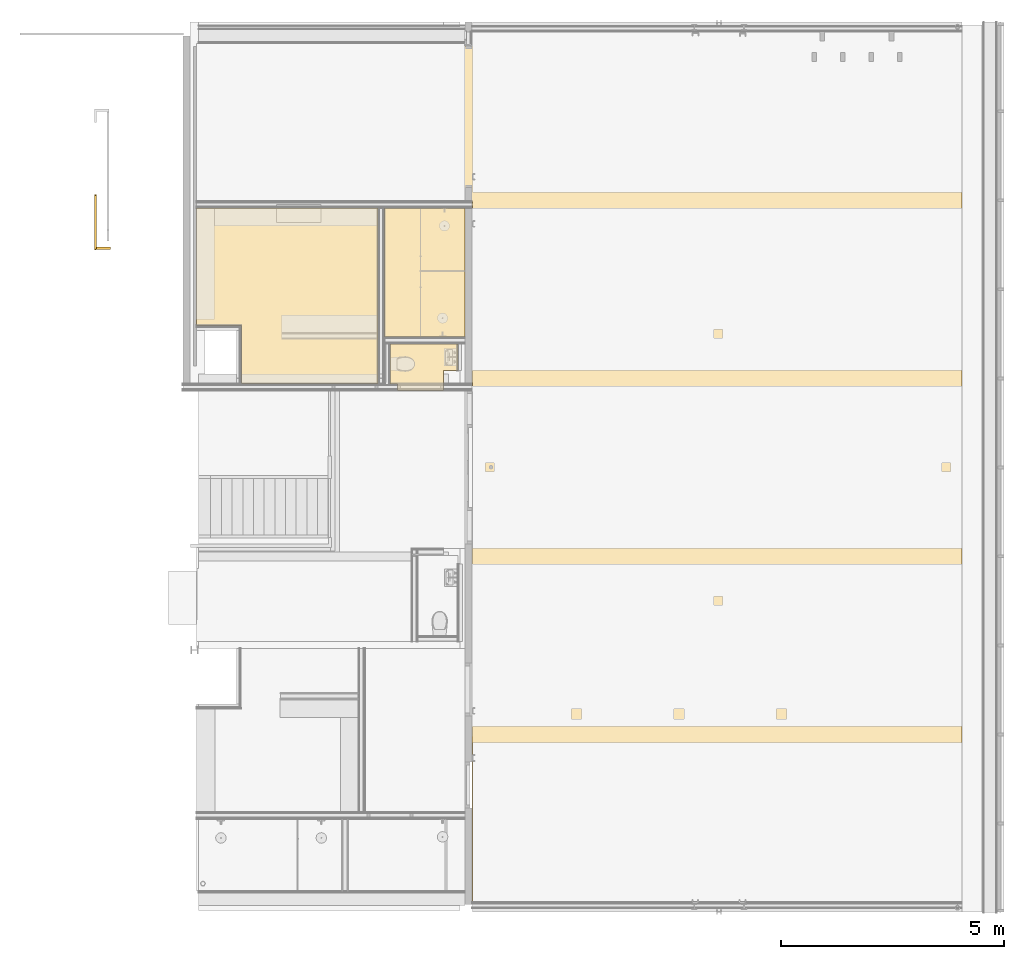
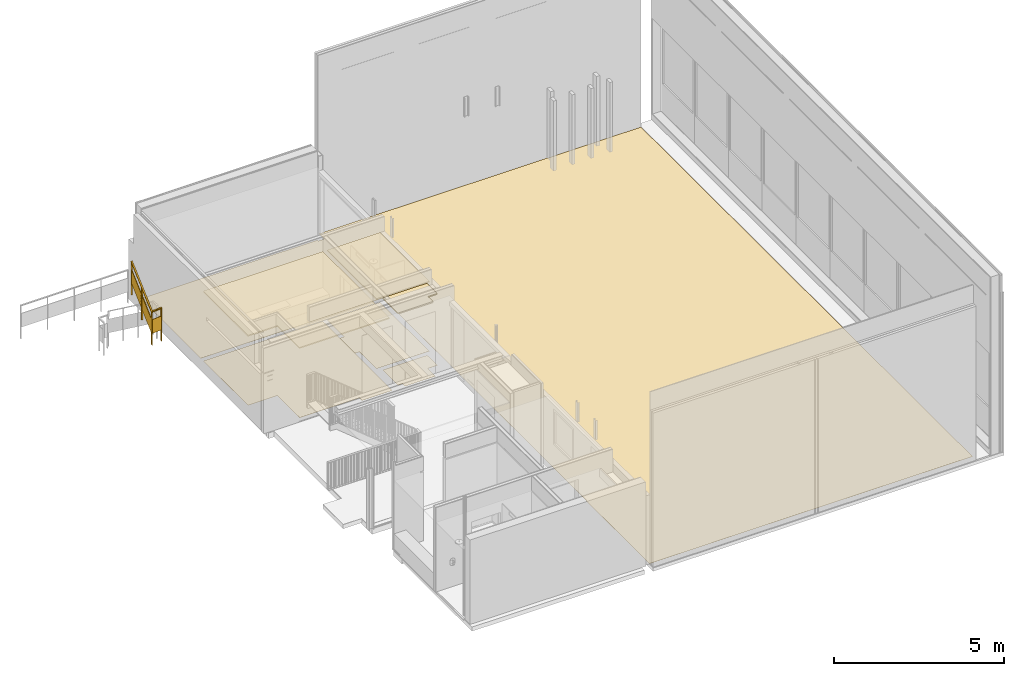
# One storey, part 25 of 35: 6 coverings, 1 railing.
"""IFC2X3 building model written with IfcOpenShell, lengths in millimetres."""

from ifc_helpers import new_model, entity, si_unit, converted_unit, derived_unit, money_unit, direction, frame, origin_with_axes, place, context, subcontext, project, spatial, faceted_brep, material, material_list, type_object, element, save


model = new_model("IFC2X3")

# Units and contexts
model_context = context("Model", 3, precision=0.01, world=origin_with_axes(), true_north=direction((0.0, 1.0)))
body_context = subcontext(model_context, "Body", "Model", "MODEL_VIEW")
ifc_project = project(units=[si_unit("LENGTHUNIT", "METRE", prefix="MILLI"), si_unit("AREAUNIT", "SQUARE_METRE"), si_unit("VOLUMEUNIT", "CUBIC_METRE"), converted_unit("PLANEANGLEUNIT", "DEGREE", entity("IfcPlaneAngleMeasure", 0.0174532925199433), si_unit("PLANEANGLEUNIT", "RADIAN"), dimensions=[0, 0, 0, 0, 0, 0, 0]), money_unit("EUR"), converted_unit("TIMEUNIT", "Year", entity("IfcTimeMeasure", 31557600.0), si_unit("TIMEUNIT", "SECOND"), dimensions=[0, 0, 1, 0, 0, 0, 0]), si_unit("MASSUNIT", "GRAM", prefix="KILO"), si_unit("THERMODYNAMICTEMPERATUREUNIT", "DEGREE_CELSIUS"), si_unit("LUMINOUSINTENSITYUNIT", "LUMEN"), si_unit("ENERGYUNIT", "JOULE", prefix="MEGA"), derived_unit("THERMALCONDUCTANCEUNIT", [(si_unit("POWERUNIT", "WATT"), 1), (si_unit("LENGTHUNIT", "METRE"), -1), (si_unit("THERMODYNAMICTEMPERATUREUNIT", "KELVIN"), -1)]), derived_unit("SPECIFICHEATCAPACITYUNIT", [(si_unit("ENERGYUNIT", "JOULE"), 1), (si_unit("MASSUNIT", "GRAM", prefix="KILO"), -1), (si_unit("THERMODYNAMICTEMPERATUREUNIT", "KELVIN"), -1)]), derived_unit("MASSDENSITYUNIT", [(si_unit("MASSUNIT", "GRAM", prefix="KILO"), 1), (si_unit("VOLUMEUNIT", "CUBIC_METRE"), -1)])], contexts=[model_context])

# Site, building, storey
site_placement = place(None, origin_with_axes())
site = spatial("IfcSite", under=ifc_project, at=site_placement, Name="<site naam>", CompositionType="ELEMENT")
building_placement = place(site_placement, origin_with_axes())
building = spatial("IfcBuilding", under=site, at=building_placement, Name="<Naam gebouw>", CompositionType="ELEMENT")
storey_placement = place(building_placement, frame((0.0, 0.0, 6345.0), z_axis=(0.0, 0.0, 1.0), x_axis=(1.0, 0.0, 0.0)))
storey = spatial("IfcBuildingStorey", under=building, at=storey_placement, Name="02 2e tussenverdieping", CompositionType="ELEMENT", Elevation=6345.0)

# Coverings
ifc_material_1 = material(Name="Gietvloer type 02a")
covering_type_1 = type_object("IfcCoveringType", Name="VA-02a 3", PredefinedType="CEILING")
covering_1_placement = place(storey_placement, frame((52134.99997288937, 15824.99998578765, 0.0), z_axis=(0.0, 0.0, 1.0), x_axis=(1.0, 0.0, 0.0)))
element("IfcCovering", 1, at=covering_1_placement, inside=storey, type_object=covering_type_1, material=ifc_material_1, Name="43_Vloer_VA-02a", PredefinedType="CEILING", context=body_context, shape_type="Brep", body=[
    faceted_brep([(0.0, 0.0, 3.000000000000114), (0.0, 0.0, 0.0), (0.0, -2637.500011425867, 0.0), (0.0, -2637.500011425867, 3.000000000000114), (4070.035734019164, 0.0, 3.000000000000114), (4070.035734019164, 0.0, 0.0), (4070.035734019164, -4099.999993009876, 0.0), (3036.035751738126, -4099.999993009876, 0.0), (3036.035751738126, -3950.000030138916, 0.0), (1002.500095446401, -3949.999938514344, 0.0), (1002.500095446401, -2637.500011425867, 0.0), (1002.500095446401, -2637.500011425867, 3.000000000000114), (1002.500095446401, -3949.999938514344, 3.000000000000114), (3036.035751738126, -3950.000030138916, 3.000000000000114), (3036.035751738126, -4099.999993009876, 3.000000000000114), (4070.035734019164, -4099.999993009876, 3.000000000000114)], [[[0, 1, 2, 3]], [[4, 5, 1, 0]], [[2, 1, 5, 6, 7, 8, 9, 10]], [[3, 2, 10, 11]], [[4, 0, 3, 11, 12, 13, 14, 15]], [[15, 6, 5, 4]], [[14, 7, 6, 15]], [[13, 8, 7, 14]], [[12, 9, 8, 13]], [[11, 10, 9, 12]]]),
])
covering_2_placement = place(storey_placement, frame((57999.99999782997, 12774.96948441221, 0.0), z_axis=(0.0, 0.0, 1.0), x_axis=(1.0, 0.0, 0.0)))
element("IfcCovering", 2, at=covering_2_placement, inside=storey, type_object=covering_type_1, material=ifc_material_1, Name="43_Vloer_VA-02a", PredefinedType="CEILING", context=body_context, shape_type="Brep", body=[
    faceted_brep([(0.0, 0.0, 3.000000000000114), (0.0, 0.0, 0.0), (-1517.596633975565, 8.052945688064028e-05, 0.0), (-1517.596633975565, 8.052945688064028e-05, 3.000000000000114), (0.0, -599.96947715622, 3.000000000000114), (0.0, -599.96947715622, 0.0), (-325.0000066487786, -599.96947715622, 0.0), (-325.0000334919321, -1049.969482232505, 0.0), (-1359.000041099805, -1049.969482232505, 0.0), (-1359.000041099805, -899.9694358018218, 0.0), (-1517.596633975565, -899.9695431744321, 0.0), (-1517.596633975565, -899.9695431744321, 3.000000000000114), (-1359.000041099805, -899.9694358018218, 3.000000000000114), (-1359.000041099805, -1049.969482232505, 3.000000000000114), (-325.0000334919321, -1049.969482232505, 3.000000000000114), (-325.0000066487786, -599.96947715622, 3.000000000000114)], [[[0, 1, 2, 3]], [[4, 5, 1, 0]], [[2, 1, 5, 6, 7, 8, 9, 10]], [[3, 2, 10, 11]], [[4, 0, 3, 11, 12, 13, 14, 15]], [[15, 6, 5, 4]], [[14, 7, 6, 15]], [[13, 8, 7, 14]], [[12, 9, 8, 13]], [[11, 10, 9, 12]]]),
])
ifc_material_2 = material(Name="sportvloer")
covering_type_2 = type_object("IfcCoveringType", Name="VA-03 3", PredefinedType="CEILING")
covering_3_placement = place(storey_placement, frame((52135.00000000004, 15974.99999999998, 0.0), z_axis=(0.0, 0.0, 1.0), x_axis=(1.0, 0.0, 0.0)))
element("IfcCovering", 3, at=covering_3_placement, inside=storey, type_object=covering_type_2, material=ifc_material_2, Name="43_Vloer_VA-03", PredefinedType="CEILING", context=body_context, shape_type="Brep", body=[
    faceted_brep([(0.0, 0.0, 3.000000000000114), (0.0, 0.0, 0.0), (6200.000220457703, 0.0, 0.0), (6200.000220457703, 0.0, 3.000000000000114), (0.0, 3547.000097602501, 3.000000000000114), (0.0, 3547.000097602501, 0.0), (6022.783017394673, 3547.000097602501, 0.0), (6022.783017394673, 3494.999969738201, 0.0), (6228.782772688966, 3494.999969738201, 0.0), (6228.782772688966, 3809.999976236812, 0.0), (17189.99989652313, 3809.999976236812, 0.0), (17189.99989652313, -15749.08937475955, 0.0), (8289.999786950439, -15749.08937475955, 0.0), (8289.999786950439, -15754.08937023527, 0.0), (6182.782872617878, -15754.08937023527, 0.0), (6182.782872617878, -12024.9999802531, 0.0), (6200.000220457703, -12024.9999802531, 0.0), (6200.000220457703, -12024.9999802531, 3.000000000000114), (6182.782872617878, -12024.9999802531, 3.000000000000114), (6182.782872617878, -15754.08937023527, 3.000000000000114), (8289.999786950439, -15754.08937023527, 3.000000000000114), (8289.999786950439, -15749.08937475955, 3.000000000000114), (17189.99989652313, -15749.08937475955, 3.000000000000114), (17189.99989652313, 3809.999976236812, 3.000000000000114), (6228.782772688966, 3809.999976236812, 3.000000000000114), (6228.782772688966, 3494.999969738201, 3.000000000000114), (6022.783017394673, 3494.999969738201, 3.000000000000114), (6022.783017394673, 3547.000097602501, 3.000000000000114)], [[[0, 1, 2, 3]], [[4, 5, 1, 0]], [[2, 1, 5, 6, 7, 8, 9, 10, 11, 12, 13, 14, 15, 16]], [[3, 2, 16, 17]], [[4, 0, 3, 17, 18, 19, 20, 21, 22, 23, 24, 25, 26, 27]], [[27, 6, 5, 4]], [[26, 7, 6, 27]], [[25, 8, 7, 26]], [[24, 9, 8, 25]], [[23, 10, 9, 24]], [[22, 11, 10, 23]], [[21, 12, 11, 22]], [[20, 13, 12, 21]], [[19, 14, 13, 20]], [[18, 15, 14, 19]], [[17, 16, 15, 18]]]),
])
ifc_material_3 = material(Name="systeemplafond 600*600 kleur wit")
covering_type_3 = type_object("IfcCoveringType", Name="PA-01a 40", PredefinedType="CEILING")
covering_4_placement = place(storey_placement, frame((56482.40333589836, 12775.95640098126, 2599.999999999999), z_axis=(0.0, 0.0, 1.0), x_axis=(1.0, 0.0, 0.0)))
element("IfcCovering", 4, at=covering_4_placement, inside=storey, type_object=covering_type_3, material=ifc_material_3, Name="45_Vloer_PA-01a", PredefinedType="CEILING", context=body_context, shape_type="Brep", body=[
    faceted_brep([(0.0, 0.0, 0.0), (0.0, 0.0, -39.99999999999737), (0.0, -900.9564131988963, -39.99999999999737), (0.0, -900.9564131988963, 0.0), (1505.596511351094, 0.0, 0.0), (1505.596511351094, 0.0, -39.99999999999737), (1505.596511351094, -600.9563995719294, -39.99999999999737), (1192.596661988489, -600.9563995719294, -39.99999999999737), (1192.596661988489, -900.9564131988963, -39.99999999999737), (1192.596661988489, -900.9564131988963, 0.0), (1192.596661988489, -600.9563995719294, 0.0), (1505.596511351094, -600.9563995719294, 0.0)], [[[0, 1, 2, 3]], [[4, 5, 1, 0]], [[2, 1, 5, 6, 7, 8]], [[3, 2, 8, 9]], [[4, 0, 3, 9, 10, 11]], [[11, 6, 5, 4]], [[10, 7, 6, 11]], [[9, 8, 7, 10]]]),
])
ifc_material_4 = material(Name="systeemplafond 600*600 vochtbestendig")
covering_type_4 = type_object("IfcCoveringType", Name="PA-01b 40", PredefinedType="CEILING")
covering_5_placement = place(storey_placement, frame((52135.00000000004, 15825.00001769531, 2519.999999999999), z_axis=(0.0, 0.0, 1.0), x_axis=(1.0, 0.0, 0.0)))
element("IfcCovering", 5, at=covering_5_placement, inside=storey, type_object=covering_type_4, material=ifc_material_4, Name="45_Vloer_PA-01b", PredefinedType="CEILING", context=body_context, shape_type="Brep", body=[
    faceted_brep([(4070.03567080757, -3936.340151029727, 0.0), (4070.035702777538, -2899.043645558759, 0.0), (4070.035702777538, -2799.99999534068, 0.0), (4070.03567080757, 0.0, 0.0), (0.0, 0.0, 0.0), (0.0, -2637.500042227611, 0.0), (1002.4999745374, -2637.500042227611, 0.0), (1002.4999745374, -3936.340151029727, 0.0), (4070.03567080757, -3936.340151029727, -39.99999999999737), (4070.035702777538, -2899.043645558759, -39.99999999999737), (4070.035702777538, -2799.99999534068, -39.99999999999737), (4070.03567080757, 0.0, -39.99999999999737), (0.0, 0.0, -39.99999999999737), (0.0, -2637.500042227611, -39.99999999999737), (1002.4999745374, -2637.500042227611, -39.99999999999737), (1002.4999745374, -3936.340151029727, -39.99999999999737)], [[[0, 1, 2, 3, 4, 5, 6, 7]], [[8, 9, 1, 0]], [[9, 10, 2, 1]], [[3, 2, 10, 11]], [[4, 3, 11, 12]], [[5, 4, 12, 13]], [[6, 5, 13, 14]], [[7, 6, 14, 15]], [[0, 7, 15, 8]], [[11, 10, 9, 8, 15, 14, 13, 12]]]),
    faceted_brep([(4220.035714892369, 0.0, -39.99999999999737), (4220.035702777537, -2799.99999534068, -39.99999999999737), (4220.035702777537, -2799.99999534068, 0.0), (4220.035714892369, 0.0, 0.0), (6022.7830267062, -2899.043645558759, -39.99999999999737), (4220.035702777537, -2899.043645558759, -39.99999999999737), (6022.7830267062, 0.0, -39.99999999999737), (4220.035702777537, -2899.043645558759, 0.0), (6022.7830267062, -2899.043645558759, 0.0), (6022.7830267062, 0.0, 0.0)], [[[0, 1, 2, 3]], [[4, 5, 1, 0, 6]], [[5, 7, 2, 1]], [[3, 2, 7, 8, 9]], [[3, 9, 6, 0]], [[8, 7, 5, 4]], [[9, 8, 4, 6]]]),
])

# Railing
ifc_material_5 = material(Name="staal balustrade")
ifc_material_6 = material(Name="hout AFW")
ifc_material_list = material_list([ifc_material_5, ifc_material_5, ifc_material_5, ifc_material_5, ifc_material_5, ifc_material_5, ifc_material_5, ifc_material_6, ifc_material_5, ifc_material_6, ifc_material_5, ifc_material_6])
railing_type = type_object("IfcRailingType", Name="Railing Type", PredefinedType="NOTDEFINED")
railing_placement = place(storey_placement, frame((50190.00000000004, 14873.98729100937, 2125.000000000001), z_axis=(0.0, 0.0, 1.0), x_axis=(1.0, 0.0, 0.0)))
element("IfcRailing", 6, at=railing_placement, inside=storey, type_object=railing_type, material=ifc_material_list, Name="34_Reling_", PredefinedType="NOTDEFINED", context=body_context, shape_type="Brep", body=[
    faceted_brep([(-10.10118537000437, 75.49914812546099, -170.7851577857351), (-10.03372238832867, 25.49919363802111, -170.7851577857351), (-10.03372238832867, 25.49919363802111, 1009.214842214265), (-10.10118537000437, 75.49914812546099, 1009.214842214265), (9.898796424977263, 75.52613331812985, -169.2148422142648), (9.966259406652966, 25.52617883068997, -169.2148422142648), (9.966259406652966, 25.52617883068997, 1010.785157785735), (9.898796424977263, 75.52613331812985, 1010.785157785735)], [[[0, 1, 2, 3]], [[0, 4, 5, 1]], [[1, 5, 6, 2]], [[3, 2, 6, 7]], [[4, 0, 3, 7]], [[5, 4, 7, 6]]]),
    faceted_brep([(-0.03373149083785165, 25.51268623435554, 1029.999999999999), (2.31451270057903, 25.5158546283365, 1000.092045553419), (12.28382177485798, 25.52930582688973, 1000.874794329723), (9.935577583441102, 25.52613743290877, 1030.782748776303), (-0.101194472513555, 75.51264072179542, 1029.999999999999), (2.247049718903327, 75.51580911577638, 1000.092045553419), (12.21635879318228, 75.5292603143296, 1000.874794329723), (9.868114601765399, 75.52609192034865, 1030.782748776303)], [[[0, 1, 2, 3]], [[0, 4, 5, 1]], [[1, 5, 6, 2]], [[3, 2, 6, 7]], [[4, 0, 3, 7]], [[5, 4, 7, 6]]]),
    faceted_brep([(-340.4904815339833, 64.24601947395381, -188.7007547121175), (-339.5383337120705, 14.25508615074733, -208.0886022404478), (-339.9806761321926, 14.25057556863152, 980.0304701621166), (-320.4904997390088, 64.27300466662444, -187.788125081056), (-319.538351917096, 14.28207134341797, -207.1759726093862), (-319.980694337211, 14.27756076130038, 980.0304701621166), (-340.0481391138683, 64.2505300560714, 980.0304701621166), (-320.0481573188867, 64.27751524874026, 980.0304701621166)], [[[0, 1, 2]], [[0, 3, 4, 1]], [[1, 4, 5, 2]], [[0, 2, 6]], [[3, 0, 6, 7]], [[4, 3, 7]], [[4, 7, 5]], [[6, 2, 5, 7]]]),
    faceted_brep([(-329.9968522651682, 25.06747990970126, 1003.745599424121), (-327.7121182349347, 52.06836715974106, 974.1825841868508), (-327.6756912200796, 25.07061176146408, 974.1825841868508), (-327.6832819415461, 52.06629948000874, 974.1848480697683), (-329.96783769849, 25.06751905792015, 1003.745556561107), (-327.6468577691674, 25.07065066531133, 974.1848480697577)], [[[0, 1, 2]], [[3, 1, 0, 4]], [[1, 3, 5, 2]], [[4, 0, 2, 5]], [[3, 4, 5]]]),
    faceted_brep([(-327.7209985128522, 58.64995426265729, 974.1825841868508), (-328.8962003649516, 75.06901048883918, 988.8681319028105), (-327.7431542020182, 75.07056624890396, 974.1825841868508), (-328.8677814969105, 75.06904883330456, 988.8756760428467), (-327.6921570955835, 58.64408905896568, 974.1848480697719), (-327.7143207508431, 75.07060515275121, 974.1848480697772)], [[[0, 1, 2]], [[3, 1, 0, 4]], [[1, 3, 5, 2]], [[4, 0, 2, 5]], [[3, 4, 5]]]),
    faceted_brep([(-355.0000000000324, 28.46063130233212, 1000.030470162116), (-355.0000000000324, 48.69221356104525, 977.8791027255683), (-355.0000000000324, 27.08534644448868, 958.1448307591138), (-355.0000000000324, 6.853764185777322, 980.2961981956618), (-327.968786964, 48.69221356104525, 977.8791027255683), (-329.6807227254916, 28.46063130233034, 1000.030470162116), (-326.943480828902, 34.65853621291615, 965.0616774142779), (-305.0000000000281, 36.54515056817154, 966.784785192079), (-305.0000000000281, 27.0853464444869, 958.1448307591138), (-305.0000000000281, 19.19586672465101, 966.7829472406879), (-326.9247388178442, 20.76795983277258, 965.0616774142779), (-327.7581079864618, 10.91923929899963, 975.8449480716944), (-305.0000000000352, 10.94994592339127, 975.811327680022), (-305.0000000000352, 6.85376418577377, 980.2961981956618), (-305.0000000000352, 10.94994592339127, 984.0373775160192), (-328.3990783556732, 10.91837446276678, 984.0085422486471)], [[[0, 1, 2, 3]], [[4, 1, 0, 5]], [[1, 4, 6, 7, 8, 2]], [[8, 9, 10, 11, 12, 13, 3, 2]], [[5, 0, 3, 13, 14, 15]], [[4, 5, 15, 11, 10, 6]], [[7, 6, 10, 9]], [[7, 9, 8]], [[14, 12, 11, 15]], [[12, 14, 13]]]),
    faceted_brep([(-305.0000000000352, 1238.427269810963, 905.1333333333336), (-355.0000000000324, 1238.427269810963, 905.1333333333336), (-355.0000000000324, 1238.427269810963, 2085.133333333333), (-305.0000000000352, 1238.427269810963, 2085.133333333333), (-305.0000000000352, 1218.427269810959, 886.866666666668), (-355.0000000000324, 1218.427269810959, 886.866666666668), (-355.0000000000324, 1218.427269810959, 2066.866666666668), (-305.0000000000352, 1218.427269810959, 2066.866666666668)], [[[0, 1, 2, 3]], [[0, 4, 5, 1]], [[1, 5, 6, 2]], [[3, 2, 6, 7]], [[4, 0, 3, 7]], [[5, 4, 7, 6]]]),
    faceted_brep([(-305.0000000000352, 1228.427269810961, 2096.0), (-305.0000000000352, 1248.658852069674, 2073.848632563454), (-305.0000000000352, 1256.042641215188, 2080.592493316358), (-305.0000000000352, 1235.811058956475, 2102.743860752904), (-355.0000000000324, 1228.427269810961, 2096.0), (-355.0000000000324, 1248.658852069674, 2073.848632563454), (-355.0000000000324, 1256.042641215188, 2080.592493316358), (-355.0000000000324, 1235.811058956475, 2102.743860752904)], [[[0, 1, 2, 3]], [[0, 4, 5, 1]], [[1, 5, 6, 2]], [[3, 2, 6, 7]], [[4, 0, 3, 7]], [[5, 4, 7, 6]]]),
    faceted_brep([(-329.9951019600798, 25.06748227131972, 1004.092802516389), (-327.6468577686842, 25.07065066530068, 974.1848480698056), (2.31451270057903, 25.5158546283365, 1000.092045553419), (-0.03373149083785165, 25.51268623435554, 1029.999999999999), (-327.7143207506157, 75.07060515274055, 974.1848480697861), (-330.0625649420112, 75.0674367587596, 1004.092802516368), (2.247049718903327, 75.51580911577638, 1000.092045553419), (-0.101194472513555, 75.51264072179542, 1029.999999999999)], [[[0, 1, 2, 3]], [[4, 1, 0, 5]], [[1, 4, 6, 2]], [[3, 2, 6, 7]], [[5, 0, 3, 7]], [[4, 5, 7, 6]]]),
    faceted_brep([(-320.0153499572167, 40.08096121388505, 204.8779603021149), (-10.05396128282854, 40.49917998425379, 229.2148422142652), (-10.05396128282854, 40.49917998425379, 729.2148422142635), (-320.0153499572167, 40.08096121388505, 704.8779603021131), (-320.0423351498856, 60.08094300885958, 204.8779603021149), (-10.0809464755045, 60.49916177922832, 229.2148422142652), (-10.0809464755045, 60.49916177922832, 729.2148422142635), (-320.0423351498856, 60.08094300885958, 704.8779603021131)], [[[0, 1, 2, 3]], [[1, 0, 4, 5]], [[6, 2, 1, 5]], [[7, 3, 2, 6]], [[0, 3, 7, 4]], [[6, 5, 4, 7]]]),
    faceted_brep([(-305.0000000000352, 28.46063130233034, 1000.030470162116), (-305.0000000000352, 48.69221356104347, 977.8791027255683), (-305.0000000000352, 1248.658852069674, 2073.848632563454), (-305.0000000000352, 1228.427269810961, 2096.0), (-355.0000000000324, 48.69221356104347, 977.8791027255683), (-355.0000000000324, 28.46063130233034, 1000.030470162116), (-355.0000000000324, 1248.658852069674, 2073.848632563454), (-355.0000000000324, 1228.427269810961, 2096.0)], [[[0, 1, 2, 3]], [[4, 1, 0, 5]], [[1, 4, 6, 2]], [[2, 6, 7, 3]], [[5, 0, 3, 7]], [[4, 5, 7, 6]]]),
    faceted_brep([(-340.0000000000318, 618.4439505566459, 738.8819017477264), (-340.0000000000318, 38.46063130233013, 209.1638034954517), (-340.0000000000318, 38.46063130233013, 709.1638034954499), (-340.0000000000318, 618.4439505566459, 1238.881901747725), (-320.0000000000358, 38.46063130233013, 209.1638034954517), (-320.0000000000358, 618.4439505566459, 738.8819017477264), (-320.0000000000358, 38.46063130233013, 709.1638034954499), (-320.0000000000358, 618.4439505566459, 1238.881901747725)], [[[0, 1, 2, 3]], [[4, 1, 0, 5]], [[6, 2, 1, 4]], [[3, 2, 6, 7]], [[0, 3, 7, 5]], [[6, 4, 5, 7]]]),
    faceted_brep([(-305.0000000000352, 633.4439505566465, 352.5819017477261), (-355.0000000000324, 633.4439505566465, 352.5819017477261), (-355.0000000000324, 633.4439505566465, 1552.581901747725), (-305.0000000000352, 633.4439505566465, 1552.581901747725), (-305.0000000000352, 623.443950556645, 343.4485684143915), (-355.0000000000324, 623.443950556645, 343.4485684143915), (-355.0000000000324, 623.443950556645, 1543.448568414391), (-305.0000000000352, 623.443950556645, 1543.448568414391)], [[[0, 1, 2, 3]], [[0, 4, 5, 1]], [[1, 5, 6, 2]], [[3, 2, 6, 7]], [[4, 0, 3, 7]], [[5, 4, 7, 6]]]),
    faceted_brep([(-340.0000000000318, 1218.427269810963, 1286.866666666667), (-340.0000000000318, 638.4439505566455, 757.1485684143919), (-340.0000000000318, 638.4439505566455, 1257.14856841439), (-340.0000000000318, 1218.427269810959, 1786.866666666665), (-320.0000000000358, 638.4439505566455, 757.1485684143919), (-320.0000000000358, 1218.427269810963, 1286.866666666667), (-320.0000000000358, 638.4439505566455, 1257.14856841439), (-320.0000000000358, 1218.427269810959, 1786.866666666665)], [[[0, 1, 2, 3]], [[4, 1, 0, 5]], [[6, 2, 1, 4]], [[3, 2, 6, 7]], [[0, 3, 7, 5]], [[6, 4, 5, 7]]]),
])

# Covering
ifc_material_7 = material(Name="Gietvloer type 02b")
covering_type_5 = type_object("IfcCoveringType", Name="VA-02b 3", PredefinedType="CEILING")
covering_6_placement = place(storey_placement, frame((56205.03570277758, 13925.95640277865, 0.0), z_axis=(0.0, 0.0, 1.0), x_axis=(1.0, 0.0, 0.0)))
element("IfcCovering", 7, at=covering_6_placement, inside=storey, type_object=covering_type_5, material=ifc_material_7, Name="43_Vloer_VA-02b", PredefinedType="CEILING", context=body_context, shape_type="Brep", body=[
    faceted_brep([(0.0, 0.0, 3.000000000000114), (0.0, 0.0, 0.0), (149.9999958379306, 0.0, 0.0), (149.9999958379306, 0.0, 3.000000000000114), (0.0, 900.0000193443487, 3.000000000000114), (0.0, 900.0000193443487, 0.0), (149.9999958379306, 900.0000193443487, 0.0), (149.9999958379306, 1899.043597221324, 0.0), (1952.747140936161, 1899.043597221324, 0.0), (1952.747140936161, -1000.000001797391, 0.0), (149.9999958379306, -1000.000001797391, 0.0), (149.9999958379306, -1000.000001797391, 3.000000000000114), (1952.747140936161, -1000.000001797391, 3.000000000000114), (1952.747140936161, 1899.043597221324, 3.000000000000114), (149.9999958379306, 1899.043597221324, 3.000000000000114), (149.9999958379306, 900.0000193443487, 3.000000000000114)], [[[0, 1, 2, 3]], [[4, 5, 1, 0]], [[2, 1, 5, 6, 7, 8, 9, 10]], [[3, 2, 10, 11]], [[4, 0, 3, 11, 12, 13, 14, 15]], [[15, 6, 5, 4]], [[14, 7, 6, 15]], [[13, 8, 7, 14]], [[12, 9, 8, 13]], [[11, 10, 9, 12]]]),
])

save(model, "model.ifc")
